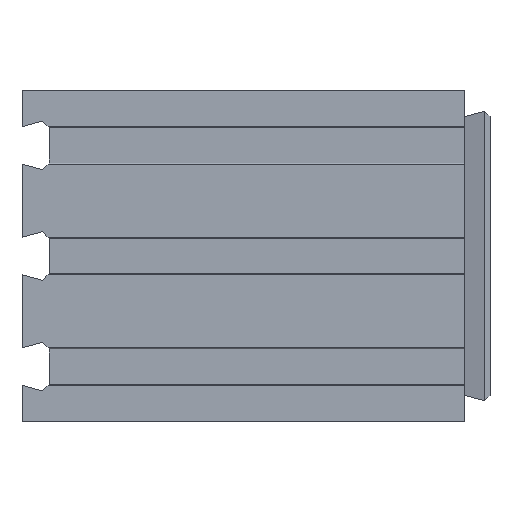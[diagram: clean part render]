
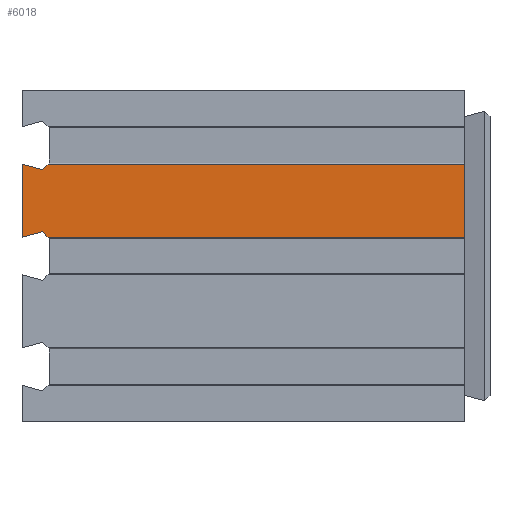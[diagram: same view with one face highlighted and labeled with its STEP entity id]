
A CAD part, left-side view. The second image highlights one B-rep face of the part: STEP entity #6018.
In plain terms, the highlighted planar face has unit normal (-1, 0, 0).
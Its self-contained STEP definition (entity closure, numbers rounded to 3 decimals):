
#172=FACE_OUTER_BOUND('',#526,.T.);
#526=EDGE_LOOP('',(#4508,#4509,#4510,#4511,#4512,#4513,#4514,#4515));
#1088=LINE('',#8839,#1940);
#1097=LINE('',#8856,#1949);
#1153=LINE('',#8967,#2005);
#1154=LINE('',#8969,#2006);
#1155=LINE('',#8971,#2007);
#1156=LINE('',#8973,#2008);
#1157=LINE('',#8975,#2009);
#1158=LINE('',#8976,#2010);
#1940=VECTOR('',#7165,10.);
#1949=VECTOR('',#7180,10.);
#2005=VECTOR('',#7282,10.);
#2006=VECTOR('',#7283,10.);
#2007=VECTOR('',#7284,10.);
#2008=VECTOR('',#7285,10.);
#2009=VECTOR('',#7286,10.);
#2010=VECTOR('',#7287,10.);
#2682=VERTEX_POINT('',#8837);
#2683=VERTEX_POINT('',#8838);
#2688=VERTEX_POINT('',#8855);
#2720=VERTEX_POINT('',#8966);
#2721=VERTEX_POINT('',#8968);
#2722=VERTEX_POINT('',#8970);
#2723=VERTEX_POINT('',#8972);
#2724=VERTEX_POINT('',#8974);
#3304=EDGE_CURVE('',#2682,#2683,#1088,.T.);
#3313=EDGE_CURVE('',#2688,#2682,#1097,.T.);
#3369=EDGE_CURVE('',#2683,#2720,#1153,.T.);
#3370=EDGE_CURVE('',#2720,#2721,#1154,.T.);
#3371=EDGE_CURVE('',#2721,#2722,#1155,.T.);
#3372=EDGE_CURVE('',#2722,#2723,#1156,.T.);
#3373=EDGE_CURVE('',#2724,#2723,#1157,.T.);
#3374=EDGE_CURVE('',#2724,#2688,#1158,.T.);
#4508=ORIENTED_EDGE('',*,*,#3313,.T.);
#4509=ORIENTED_EDGE('',*,*,#3304,.T.);
#4510=ORIENTED_EDGE('',*,*,#3369,.T.);
#4511=ORIENTED_EDGE('',*,*,#3370,.T.);
#4512=ORIENTED_EDGE('',*,*,#3371,.T.);
#4513=ORIENTED_EDGE('',*,*,#3372,.T.);
#4514=ORIENTED_EDGE('',*,*,#3373,.F.);
#4515=ORIENTED_EDGE('',*,*,#3374,.T.);
#5664=PLANE('',#6379);
#6018=ADVANCED_FACE('',(#172),#5664,.T.);
#6379=AXIS2_PLACEMENT_3D('',#8965,#7280,#7281);
#7165=DIRECTION('',(0.,0.966,0.259));
#7180=DIRECTION('',(0.,0.707,-0.707));
#7280=DIRECTION('center_axis',(-1.,0.,0.));
#7281=DIRECTION('ref_axis',(0.,0.,1.));
#7282=DIRECTION('',(0.,0.,-1.));
#7283=DIRECTION('',(0.,-0.966,0.259));
#7284=DIRECTION('',(0.,-0.707,-0.707));
#7285=DIRECTION('',(0.,-1.,0.));
#7286=DIRECTION('',(0.,0.,-1.));
#7287=DIRECTION('',(0.,1.,0.));
#8837=CARTESIAN_POINT('',(-5.,38.145,22.803));
#8838=CARTESIAN_POINT('',(-5.,40.,23.3));
#8839=CARTESIAN_POINT('',(-5.,18.825,17.626));
#8855=CARTESIAN_POINT('',(-5.,37.648,23.3));
#8856=CARTESIAN_POINT('',(-5.,33.134,27.814));
#8965=CARTESIAN_POINT('Origin',(-5.,1.5,5.));
#8966=CARTESIAN_POINT('',(-5.,40.,16.7));
#8967=CARTESIAN_POINT('',(-5.,40.,20.));
#8968=CARTESIAN_POINT('',(-5.,38.145,17.197));
#8969=CARTESIAN_POINT('',(-5.,23.502,21.121));
#8970=CARTESIAN_POINT('',(-5.,37.648,16.7));
#8971=CARTESIAN_POINT('',(-5.,25.935,4.986));
#8972=CARTESIAN_POINT('',(-5.,0.,16.7));
#8973=CARTESIAN_POINT('',(-5.,20.75,16.7));
#8974=CARTESIAN_POINT('',(-5.,0.,23.3));
#8975=CARTESIAN_POINT('',(-5.,0.,22.5));
#8976=CARTESIAN_POINT('',(-5.,20.75,23.3));
